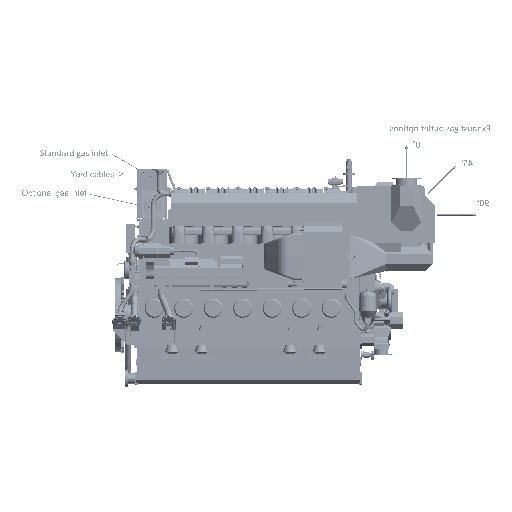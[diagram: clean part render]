
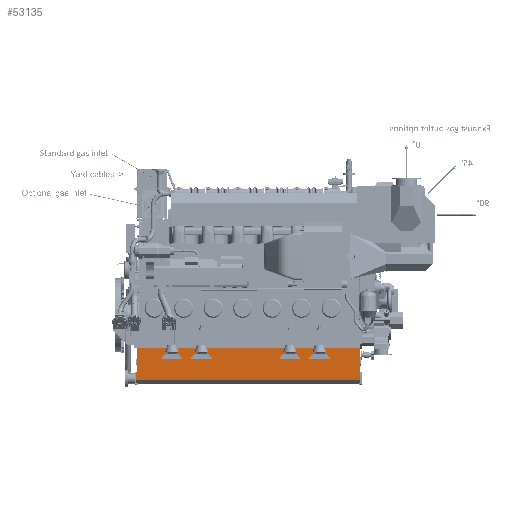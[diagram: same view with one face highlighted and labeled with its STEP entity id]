
A CAD part, front view. The second image highlights one B-rep face of the part: STEP entity #53135.
In plain terms, the highlighted planar face has unit normal (0, -0.999, -0.052).
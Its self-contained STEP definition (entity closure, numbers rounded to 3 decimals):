
#53135=ADVANCED_FACE('',(#76005),#61878,.T.);
#61878=PLANE('',#322601);
#76005=FACE_OUTER_BOUND('',#96338,.T.);
#96338=EDGE_LOOP('',(#221848,#221849,#221850,#221851,#221852,#221853));
#118964=LINE('',#680849,#142221);
#118985=LINE('',#680917,#142242);
#119003=LINE('',#680962,#142260);
#119021=LINE('',#681023,#142278);
#119030=LINE('',#681039,#142287);
#119031=LINE('',#681040,#142288);
#142221=VECTOR('',#394901,1.);
#142242=VECTOR('',#394948,1.);
#142260=VECTOR('',#394976,1.);
#142278=VECTOR('',#395022,1.);
#142287=VECTOR('',#395037,1.);
#142288=VECTOR('',#395038,1.);
#221848=ORIENTED_EDGE('',*,*,#289478,.F.);
#221849=ORIENTED_EDGE('',*,*,#289573,.F.);
#221850=ORIENTED_EDGE('',*,*,#289511,.T.);
#221851=ORIENTED_EDGE('',*,*,#289564,.T.);
#221852=ORIENTED_EDGE('',*,*,#289533,.F.);
#221853=ORIENTED_EDGE('',*,*,#289574,.F.);
#249386=VERTEX_POINT('',#680850);
#249387=VERTEX_POINT('',#680851);
#249419=VERTEX_POINT('',#680916);
#249420=VERTEX_POINT('',#680918);
#249430=VERTEX_POINT('',#680940);
#249441=VERTEX_POINT('',#680961);
#289478=EDGE_CURVE('',#249386,#249387,#118964,.T.);
#289511=EDGE_CURVE('',#249420,#249419,#118985,.T.);
#289533=EDGE_CURVE('',#249441,#249430,#119003,.T.);
#289564=EDGE_CURVE('',#249419,#249430,#119021,.T.);
#289573=EDGE_CURVE('',#249420,#249386,#119030,.T.);
#289574=EDGE_CURVE('',#249387,#249441,#119031,.T.);
#322601=AXIS2_PLACEMENT_3D('',#681041,#395039,#395040);
#394901=DIRECTION('',(0.,-0.052,0.999));
#394948=DIRECTION('',(0.,0.052,-0.999));
#394976=DIRECTION('',(0.,0.052,-0.999));
#395022=DIRECTION('',(1.,0.,0.));
#395037=DIRECTION('',(1.,0.,0.));
#395038=DIRECTION('',(1.,0.,0.));
#395039=DIRECTION('',(0.,-0.999,-0.052));
#395040=DIRECTION('',(0.,0.052,-0.999));
#680849=CARTESIAN_POINT('',(-3710.,-438.25,-545.));
#680850=CARTESIAN_POINT('',(-3710.,-417.179,-950.));
#680851=CARTESIAN_POINT('',(-3710.,-438.25,-545.));
#680916=CARTESIAN_POINT('',(-3730.,-410.5,-1078.395));
#680917=CARTESIAN_POINT('',(-3730.,-438.25,-545.));
#680918=CARTESIAN_POINT('',(-3730.,-417.179,-950.));
#680940=CARTESIAN_POINT('',(0.,-410.5,-1078.395));
#680961=CARTESIAN_POINT('',(0.,-438.25,-545.));
#680962=CARTESIAN_POINT('',(0.,-438.25,-545.));
#681023=CARTESIAN_POINT('',(-3730.,-410.5,-1078.395));
#681039=CARTESIAN_POINT('',(-3730.,-417.179,-950.));
#681040=CARTESIAN_POINT('',(-3730.,-438.25,-545.));
#681041=CARTESIAN_POINT('',(-3730.,-438.25,-545.));
